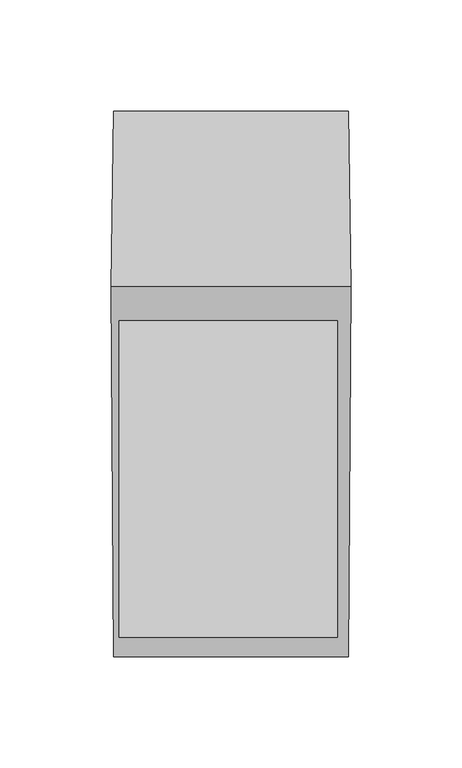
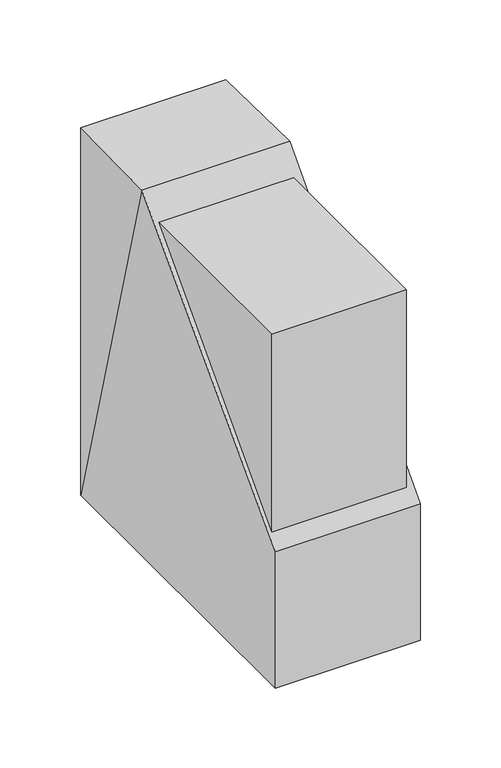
"""IFC4 building model written with IfcOpenShell, lengths in millimetres: geographic element geometry, Enscape AssetDefinition - Magazine Holder 001 : Enscape AssetDefinition - Magazine Holder 001."""

from ifc_helpers import new_model, si_unit, origin, place, context, project, spatial, triangles, source, transform, mapped, element, save


def geographic_element_349b45b4(model_context):
    return source(origin(), model_context, "Body", "Tessellation", [
        triangles([(-67.3086641, -128.3057312, -0.076606), (-67.2909099, -128.3636583, 105.3201884), (-67.3086641, 117.3333268, -0.0775402), (38.5188107, 117.3333268, 0.0112106), (38.5188107, -128.3057312, 0.0112106), (38.5020013, -128.3636583, 105.3201884), (-68.4726964, 38.3207623, 283.4422557), (-67.3086641, 117.3333268, 283.4422557), (39.6828521, 38.3207623, 283.4422557), (38.5188107, 117.3333268, 283.4422557), (-64.6863042, -119.4960491, 266.6169745), (33.5160683, -119.4960491, 266.6169745), (33.5160683, -119.4960491, 4.8915744), (33.5160683, 113.3955857, 4.8915744), (33.5160683, 113.3955857, 266.6169745), (-64.6863042, 113.3955857, 266.6169745), (-64.6863042, 113.3955857, 4.8915744), (-64.6863042, -119.4960491, 4.8915744)], [[12, 11, 18], [18, 13, 12], [11, 16, 17], [17, 18, 11], [16, 15, 14], [14, 17, 16], [15, 12, 13], [13, 14, 15], [16, 11, 12], [12, 15, 16], [17, 14, 13], [13, 18, 17], [2, 6, 9], [9, 7, 2], [7, 9, 10], [10, 8, 7], [4, 10, 9], [3, 7, 8], [4, 9, 6], [4, 6, 5], [4, 5, 1], [1, 3, 4], [4, 3, 8], [8, 10, 4], [5, 6, 2], [2, 1, 5], [3, 2, 7], [1, 2, 3]]),
    ])


if __name__ == "__main__":
    model = new_model("IFC4")
    model_context = context("Model", 3, world=origin())
    ifc_project = project(units=[si_unit("LENGTHUNIT", "METRE", prefix="MILLI")], contexts=[model_context])
    site = spatial("IfcSite", under=ifc_project)
    building = spatial("IfcBuilding", under=site)
    placement = place(None, origin())
    geographic_element_shape = geographic_element_349b45b4(model_context)
    element("IfcGeographicElement", 1, ObjectType="Enscape AssetDefinition - Magazine Holder 001 : Enscape AssetDefinition - Magazine Holder 001", at=placement, inside=building, context=model_context, shape_type="MappedRepresentation", body=[
        mapped(geographic_element_shape, transform((0.0, 0.0, 0.0), x_axis=(1.0, 0.0, 0.0), y_axis=(0.0, 1.0, 0.0), z_axis=(0.0, 0.0, 1.0))),
    ])
    save(model, "model.ifc")
